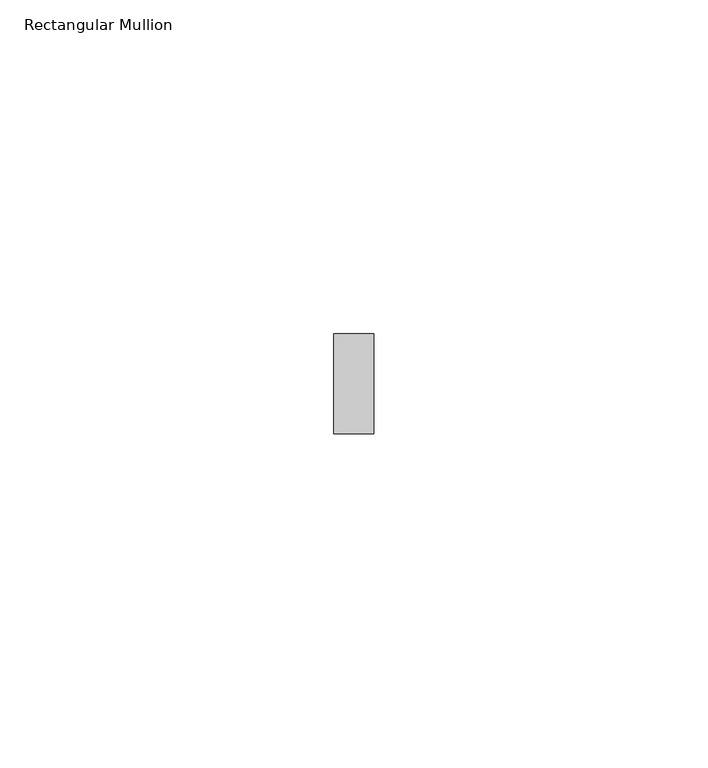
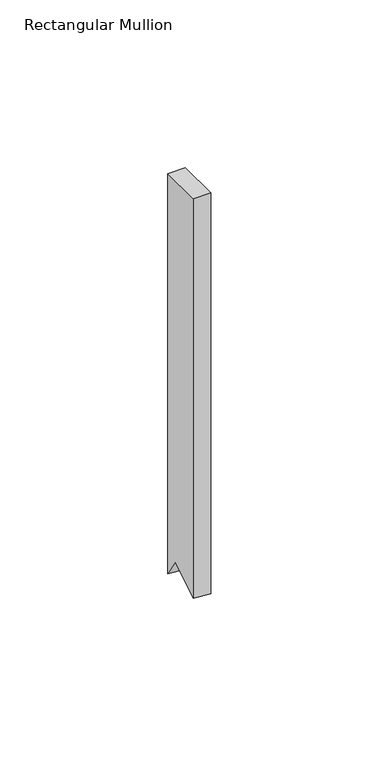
"""IFC4 building model written with IfcOpenShell, lengths in millimetres: member geometry, Rectangular Mullion : ARQ_HERR_15X6mm."""

from ifc_helpers import new_model, si_unit, origin, place, context, project, spatial, faceted_brep, source, transform, mapped, element, save


def rectangular_mullion_331b5978(model_context):
    return source(origin(), model_context, "Body", "Brep", [
        faceted_brep([(0.0, 7.5, 0.0), (-6.0, 7.5, 0.0), (-6.0, -7.5, 0.0), (0.0, -7.5, 0.0), (0.0, 7.5, -145.8258538), (-6.0, 7.5, -145.3417788), (-6.0, 3.0692186, -138.4188238), (-6.0, -7.5, -145.227292), (0.0, -7.5, -145.7113669), (0.0, 3.0692186, -138.9028987)], [[[0, 1, 2, 3]], [[1, 0, 4, 5]], [[2, 1, 5, 6, 7]], [[3, 2, 7, 8]], [[0, 3, 8, 9, 4]], [[4, 9, 6, 5]], [[9, 8, 7, 6]]]),
    ])


if __name__ == "__main__":
    model = new_model("IFC4")
    model_context = context("Model", 3, world=origin())
    ifc_project = project(units=[si_unit("LENGTHUNIT", "METRE", prefix="MILLI")], contexts=[model_context])
    site = spatial("IfcSite", under=ifc_project)
    building = spatial("IfcBuilding", under=site)
    placement = place(None, origin())
    rectangular_mullion_shape = rectangular_mullion_331b5978(model_context)
    element("IfcMember", 1, ObjectType="Rectangular Mullion : ARQ_HERR_15X6mm", at=placement, inside=building, context=model_context, shape_type="MappedRepresentation", body=[
        mapped(rectangular_mullion_shape, transform((0.0, 0.0, 0.0), x_axis=(1.0, 0.0, 0.0), y_axis=(0.0, 1.0, 0.0), z_axis=(0.0, 0.0, 1.0))),
    ])
    save(model, "model.ifc")
